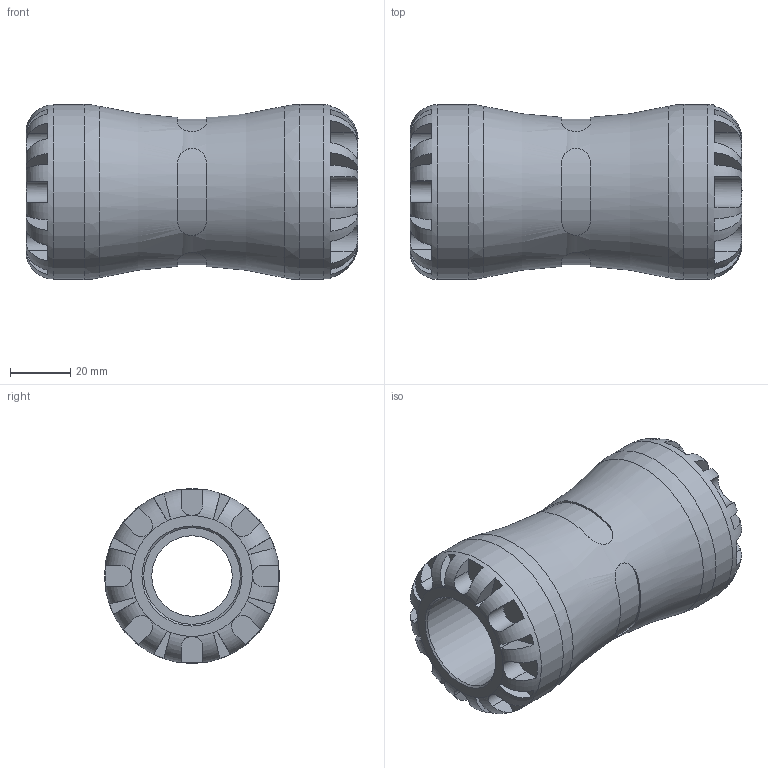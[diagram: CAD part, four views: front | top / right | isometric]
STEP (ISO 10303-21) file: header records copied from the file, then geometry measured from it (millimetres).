
FILE_DESCRIPTION(/* description */ ('PLASSON PVC TO PE COUPLER 32 SERIES 1'),/* implementation_level */ '2;1');
FILE_NAME(/* name */ 'C:\Dropbox\KIMPROJECTS-Inventor\99-16-3568-Processing\1001Q\1001Q0032_1901Q0032.ipt.stp',/* time_stamp */ '2017-01-22T10:45:33+02:00',/* author */ ('KIM'),/* organization */ (''),/* preprocessor_version */ 'ST-DEVELOPER v15.6',/* originating_system */ 'Autodesk Inventor 2015',/* authorisation */ '');
FILE_SCHEMA (('AUTOMOTIVE_DESIGN { 1 0 10303 214 3 1 1 }'));
Length unit declared in the file: millimetre
Products named in the file (1): 1001Q0032_1901Q0032
Bounding box: 110 x 58 x 58 mm (x, y, z)
Volume: 151305.4 mm3; surface area: 36459.7 mm2
Topology: 1 solids, 1 shells, 164 faces, 419 edges, 262 vertices
Faces by surface type: plane 108, cylinder 49, torus 3, cone 2, bspline 2
Full cylindrical faces by diameter (mm): 26.667 x1, 32 x2, 58 x2
Entity records: 6424 total; most frequent: CARTESIAN_POINT 2455, ORIENTED_EDGE 808, DIRECTION 762, EDGE_CURVE 404, AXIS2_PLACEMENT_3D 309, VERTEX_POINT 258, EDGE_LOOP 182, STYLED_ITEM 165
